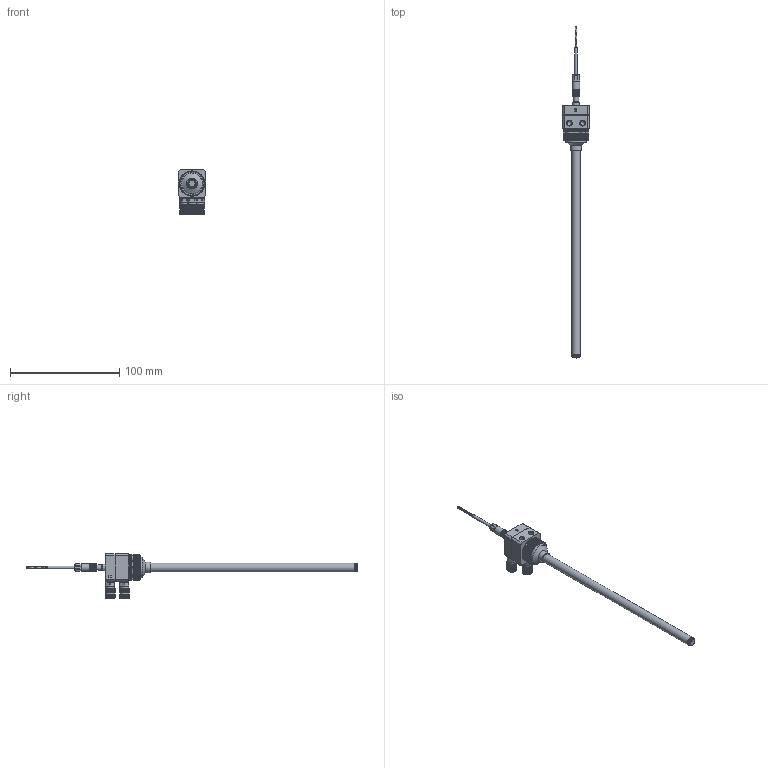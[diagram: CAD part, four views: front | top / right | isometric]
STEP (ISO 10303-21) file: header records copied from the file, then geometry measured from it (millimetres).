
FILE_DESCRIPTION (( 'STEP AP214' ), '1' );
FILE_NAME ('DAS-30-200-8-HP-SENSOR.STEP', '2024-10-11T10:03:09', ( '' ), ( '' ), 'SwSTEP 2.0', 'SolidWorks 2024', '' );
FILE_SCHEMA (( 'AUTOMOTIVE_DESIGN' ));
Length unit declared in the file: millimetre
Products named in the file (1): DAS-30-200-8-HP-SENSOR
Bounding box: 25 x 304 x 40.5 mm (x, y, z)
Volume: 30495 mm3; surface area: 17397 mm2
Topology: 2 solids, 3 shells, 1760 faces, 4690 edges, 2983 vertices
Faces by surface type: plane 1059, cylinder 447, cone 239, bspline 15
Full cylindrical faces by diameter (mm): 0.8 x3, 1.5 x4, 2.5 x1, 3 x3, 3.2 x1, 4 x5, 4.198 x2, 4.2 x2, 4.5 x3, 5 x2, 5.001 x1, 5.4 x4, 5.5 x4, 5.7 x3, 5.8 x1, 6 x1, 6.2 x3, 6.8 x1, 7 x2, 7.498 x3, 7.5 x3, 8 x9, 8.001 x1, 8.2 x1, 8.7 x3, 10 x2, 19 x1, 19.2 x1, 19.8 x1, 20.2 x1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
Entity records: 57818 total; most frequent: CARTESIAN_POINT 15706, ORIENTED_EDGE 8908, DIRECTION 8413, EDGE_CURVE 4454, AXIS2_PLACEMENT_3D 2949, VERTEX_POINT 2898, LINE 2515, VECTOR 2515
